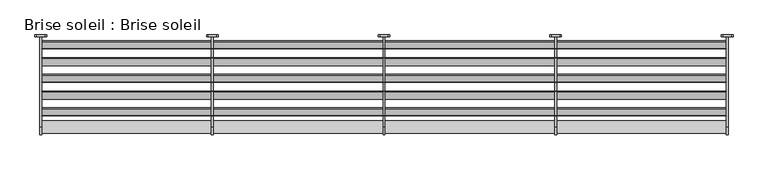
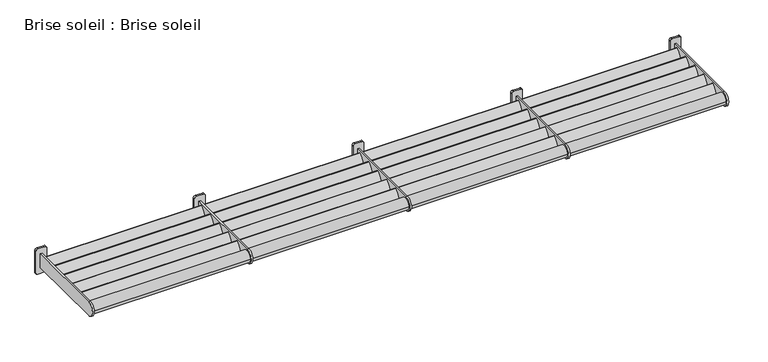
"""IFC4 building model written with IfcOpenShell, lengths in millimetres: proxy geometry, Brise soleil : Brise soleil."""

from ifc_helpers import new_model, si_unit, point, frame, frame_2d, origin, place, context, project, spatial, circle_curve, trimmed, segment, composite_curve, outline, extrude, source, transform, mapped, element, save
from ifc_brep_helpers import plane_surface, cylinder_surface, advanced_brep


def brise_soleil_brise_soleil_b8130995(model_context):
    return source(origin(), model_context, "Body", "SolidModel", [
        advanced_brep(
        [(5360.0, -20.0, 1107.5), (5280.0, -20.0, 1107.5), (5260.0, -20.0, 1087.5), (5260.0, -20.0, 827.5), (5280.0, -20.0, 807.5), (5360.0, -20.0, 807.5), (5380.0, -20.0, 827.5), (5380.0, -20.0, 1087.5), (5330.0, -20.0, 1037.5), (5330.0, -20.0, 877.5), (5310.0, -20.0, 877.5), (5310.0, -20.0, 1037.5), (5360.0, 0.0, 1107.5), (5380.0, 0.0, 1087.5), (5380.0, 0.0, 827.5), (5360.0, 0.0, 807.5), (5280.0, 0.0, 807.5), (5260.0, 0.0, 827.5), (5260.0, 0.0, 1087.5), (5280.0, 0.0, 1107.5), (5330.0, -950.0, 1037.5), (5330.0, -950.0, 877.5), (5310.0, -950.0, 877.5), (5310.0, -950.0, 1037.5)],
        [
            (0, 1),
            (1, 2, circle_curve(frame((5280.0, -20.0, 1087.5), z_axis=(0.0, -1.0, 0.0), x_axis=(1.0, 0.0, 0.0)), 20.0)),
            (2, 3),
            (3, 4, circle_curve(frame((5280.0, -20.0, 827.5), z_axis=(0.0, -1.0, 0.0), x_axis=(1.0, 0.0, 0.0)), 20.0)),
            (4, 5),
            (5, 6, circle_curve(frame((5360.0, -20.0, 827.5), z_axis=(0.0, -1.0, 0.0), x_axis=(1.0, 0.0, 0.0)), 20.0)),
            (6, 7),
            (7, 0, circle_curve(frame((5360.0, -20.0, 1087.5), z_axis=(0.0, -1.0, 0.0), x_axis=(1.0, 0.0, 0.0)), 20.0)),
            (8, 9),
            (9, 10),
            (10, 11),
            (11, 8),
            (12, 13, circle_curve(frame((5360.0, 0.0, 1087.5), z_axis=(0.0, 1.0, 0.0), x_axis=(1.0, 0.0, 0.0)), 20.0)),
            (13, 14),
            (14, 15, circle_curve(frame((5360.0, 0.0, 827.5), z_axis=(0.0, 1.0, 0.0), x_axis=(1.0, 0.0, 0.0)), 20.0)),
            (15, 16),
            (16, 17, circle_curve(frame((5280.0, 0.0, 827.5), z_axis=(0.0, 1.0, 0.0), x_axis=(1.0, 0.0, 0.0)), 20.0)),
            (17, 18),
            (18, 19, circle_curve(frame((5280.0, 0.0, 1087.5), z_axis=(0.0, 1.0, 0.0), x_axis=(1.0, 0.0, 0.0)), 20.0)),
            (19, 12),
            (0, 12),
            (19, 1),
            (18, 2),
            (17, 3),
            (16, 4),
            (15, 5),
            (14, 6),
            (13, 7),
            (20, 21, circle_curve(frame((5330.0, -950.0, 957.5), z_axis=(1.0, 0.0, 0.0), x_axis=(0.0, 1.0, 0.0)), 80.0)),
            (21, 9),
            (8, 20),
            (22, 23, circle_curve(frame((5310.0, -950.0, 957.5), z_axis=(-1.0, 0.0, 0.0), x_axis=(0.0, 1.0, 0.0)), 80.0)),
            (23, 11),
            (10, 22),
            (20, 23),
            (22, 21),
        ],
        [
            plane_surface(frame((5199.3786938, -20.0, 1107.5), z_axis=(0.0, -1.0, 0.0), x_axis=(-1.0, 0.0, 0.0))),
            plane_surface(frame((5199.3786938, 0.0, 1107.5), z_axis=(0.0, 1.0, 0.0), x_axis=(1.0, 0.0, 0.0))),
            plane_surface(frame((5360.0, -20.0, 1107.5), z_axis=(0.0, 0.0, 1.0), x_axis=(0.0, 1.0, 0.0))),
            cylinder_surface(frame((5280.0, 0.0, 1087.5), z_axis=(0.0, -1.0, 0.0), x_axis=(1.0, 0.0, 0.0)), 20.0),
            plane_surface(frame((5260.0, -20.0, 1087.5), z_axis=(-1.0, 0.0, 0.0), x_axis=(0.0, 1.0, 0.0))),
            cylinder_surface(frame((5280.0, 0.0, 827.5), z_axis=(0.0, -1.0, 0.0), x_axis=(1.0, 0.0, 0.0)), 20.0),
            plane_surface(frame((5280.0, -20.0, 807.5), z_axis=(0.0, 0.0, -1.0), x_axis=(0.0, 1.0, 0.0))),
            cylinder_surface(frame((5360.0, 0.0, 827.5), z_axis=(0.0, -1.0, 0.0), x_axis=(1.0, 0.0, 0.0)), 20.0),
            plane_surface(frame((5380.0, -20.0, 827.5), z_axis=(1.0, 0.0, 0.0), x_axis=(0.0, 1.0, 0.0))),
            cylinder_surface(frame((5360.0, 0.0, 1087.5), z_axis=(0.0, -1.0, 0.0), x_axis=(1.0, 0.0, 0.0)), 20.0),
            plane_surface(frame((5330.0, -870.0, 957.5), z_axis=(1.0, 0.0, 0.0), x_axis=(0.0, 0.0, 1.0))),
            plane_surface(frame((5310.0, -870.0, 957.5), z_axis=(-1.0, 0.0, 0.0), x_axis=(0.0, 0.0, -1.0))),
            cylinder_surface(frame((5310.0, -950.0, 957.5), z_axis=(1.0, 0.0, 0.0), x_axis=(0.0, 1.0, 0.0)), 80.0),
            plane_surface(frame((5330.0, -950.0, 877.5), z_axis=(0.0, 0.0, -1.0), x_axis=(-1.0, 0.0, 0.0))),
            plane_surface(frame((5330.0, 0.0, 1037.5), z_axis=(0.0, 0.0, 1.0), x_axis=(-1.0, 0.0, 0.0))),
        ],
        [
            (0, [[1, 2, 3, 4, 5, 6, 7, 8], [9, 10, 11, 12]]),
            (1, [[13, 14, 15, 16, 17, 18, 19, 20]]),
            (2, [[-1, 21, -20, 22]]),
            (3, [[-2, -22, -19, 23]]),
            (4, [[-3, -23, -18, 24]]),
            (5, [[-4, -24, -17, 25]]),
            (6, [[-5, -25, -16, 26]]),
            (7, [[-6, -26, -15, 27]]),
            (8, [[-7, -27, -14, 28]]),
            (9, [[-8, -28, -13, -21]]),
            (10, [[29, 30, -9, 31]]),
            (11, [[32, 33, -11, 34]]),
            (12, [[-29, 35, -32, 36]]),
            (13, [[-36, -34, -10, -30]]),
            (14, [[-35, -31, -12, -33]]),
        ],
    ),
        advanced_brep(
        [(3590.0, -20.0, 1107.5), (3510.0, -20.0, 1107.5), (3490.0, -20.0, 1087.5), (3490.0, -20.0, 827.5), (3510.0, -20.0, 807.5), (3590.0, -20.0, 807.5), (3610.0, -20.0, 827.5), (3610.0, -20.0, 1087.5), (3560.0, -20.0, 1037.5), (3560.0, -20.0, 877.5), (3540.0, -20.0, 877.5), (3540.0, -20.0, 1037.5), (3590.0, 0.0, 1107.5), (3610.0, 0.0, 1087.5), (3610.0, 0.0, 827.5), (3590.0, 0.0, 807.5), (3510.0, 0.0, 807.5), (3490.0, 0.0, 827.5), (3490.0, 0.0, 1087.5), (3510.0, 0.0, 1107.5), (3560.0, -950.0, 1037.5), (3560.0, -950.0, 877.5), (3540.0, -950.0, 877.5), (3540.0, -950.0, 1037.5)],
        [
            (0, 1),
            (1, 2, circle_curve(frame((3510.0, -20.0, 1087.5), z_axis=(0.0, -1.0, 0.0), x_axis=(1.0, 0.0, 0.0)), 20.0)),
            (2, 3),
            (3, 4, circle_curve(frame((3510.0, -20.0, 827.5), z_axis=(0.0, -1.0, 0.0), x_axis=(1.0, 0.0, 0.0)), 20.0)),
            (4, 5),
            (5, 6, circle_curve(frame((3590.0, -20.0, 827.5), z_axis=(0.0, -1.0, 0.0), x_axis=(1.0, 0.0, 0.0)), 20.0)),
            (6, 7),
            (7, 0, circle_curve(frame((3590.0, -20.0, 1087.5), z_axis=(0.0, -1.0, 0.0), x_axis=(1.0, 0.0, 0.0)), 20.0)),
            (8, 9),
            (9, 10),
            (10, 11),
            (11, 8),
            (12, 13, circle_curve(frame((3590.0, 0.0, 1087.5), z_axis=(0.0, 1.0, 0.0), x_axis=(1.0, 0.0, 0.0)), 20.0)),
            (13, 14),
            (14, 15, circle_curve(frame((3590.0, 0.0, 827.5), z_axis=(0.0, 1.0, 0.0), x_axis=(1.0, 0.0, 0.0)), 20.0)),
            (15, 16),
            (16, 17, circle_curve(frame((3510.0, 0.0, 827.5), z_axis=(0.0, 1.0, 0.0), x_axis=(1.0, 0.0, 0.0)), 20.0)),
            (17, 18),
            (18, 19, circle_curve(frame((3510.0, 0.0, 1087.5), z_axis=(0.0, 1.0, 0.0), x_axis=(1.0, 0.0, 0.0)), 20.0)),
            (19, 12),
            (0, 12),
            (19, 1),
            (18, 2),
            (17, 3),
            (16, 4),
            (15, 5),
            (14, 6),
            (13, 7),
            (20, 21, circle_curve(frame((3560.0, -950.0, 957.5), z_axis=(1.0, 0.0, 0.0), x_axis=(0.0, 1.0, 0.0)), 80.0)),
            (21, 9),
            (8, 20),
            (22, 23, circle_curve(frame((3540.0, -950.0, 957.5), z_axis=(-1.0, 0.0, 0.0), x_axis=(0.0, 1.0, 0.0)), 80.0)),
            (23, 11),
            (10, 22),
            (20, 23),
            (22, 21),
        ],
        [
            plane_surface(frame((3429.3786938, -20.0, 1107.5), z_axis=(0.0, -1.0, 0.0), x_axis=(-1.0, 0.0, 0.0))),
            plane_surface(frame((3429.3786938, 0.0, 1107.5), z_axis=(0.0, 1.0, 0.0), x_axis=(1.0, 0.0, 0.0))),
            plane_surface(frame((3590.0, -20.0, 1107.5), z_axis=(0.0, 0.0, 1.0), x_axis=(0.0, 1.0, 0.0))),
            cylinder_surface(frame((3510.0, 0.0, 1087.5), z_axis=(0.0, -1.0, 0.0), x_axis=(1.0, 0.0, 0.0)), 20.0),
            plane_surface(frame((3490.0, -20.0, 1087.5), z_axis=(-1.0, 0.0, 0.0), x_axis=(0.0, 1.0, 0.0))),
            cylinder_surface(frame((3510.0, 0.0, 827.5), z_axis=(0.0, -1.0, 0.0), x_axis=(1.0, 0.0, 0.0)), 20.0),
            plane_surface(frame((3510.0, -20.0, 807.5), z_axis=(0.0, 0.0, -1.0), x_axis=(0.0, 1.0, 0.0))),
            cylinder_surface(frame((3590.0, 0.0, 827.5), z_axis=(0.0, -1.0, 0.0), x_axis=(1.0, 0.0, 0.0)), 20.0),
            plane_surface(frame((3610.0, -20.0, 827.5), z_axis=(1.0, 0.0, 0.0), x_axis=(0.0, 1.0, 0.0))),
            cylinder_surface(frame((3590.0, 0.0, 1087.5), z_axis=(0.0, -1.0, 0.0), x_axis=(1.0, 0.0, 0.0)), 20.0),
            plane_surface(frame((3560.0, -870.0, 957.5), z_axis=(1.0, 0.0, 0.0), x_axis=(0.0, 0.0, 1.0))),
            plane_surface(frame((3540.0, -870.0, 957.5), z_axis=(-1.0, 0.0, 0.0), x_axis=(0.0, 0.0, -1.0))),
            cylinder_surface(frame((3540.0, -950.0, 957.5), z_axis=(1.0, 0.0, 0.0), x_axis=(0.0, 1.0, 0.0)), 80.0),
            plane_surface(frame((3560.0, -950.0, 877.5), z_axis=(0.0, 0.0, -1.0), x_axis=(-1.0, 0.0, 0.0))),
            plane_surface(frame((3560.0, 0.0, 1037.5), z_axis=(0.0, 0.0, 1.0), x_axis=(-1.0, 0.0, 0.0))),
        ],
        [
            (0, [[1, 2, 3, 4, 5, 6, 7, 8], [9, 10, 11, 12]]),
            (1, [[13, 14, 15, 16, 17, 18, 19, 20]]),
            (2, [[-1, 21, -20, 22]]),
            (3, [[-2, -22, -19, 23]]),
            (4, [[-3, -23, -18, 24]]),
            (5, [[-4, -24, -17, 25]]),
            (6, [[-5, -25, -16, 26]]),
            (7, [[-6, -26, -15, 27]]),
            (8, [[-7, -27, -14, 28]]),
            (9, [[-8, -28, -13, -21]]),
            (10, [[29, 30, -9, 31]]),
            (11, [[32, 33, -11, 34]]),
            (12, [[-29, 35, -32, 36]]),
            (13, [[-36, -34, -10, -30]]),
            (14, [[-35, -31, -12, -33]]),
        ],
    ),
        advanced_brep(
        [(1820.0, -20.0, 1107.5), (1740.0, -20.0, 1107.5), (1720.0, -20.0, 1087.5), (1720.0, -20.0, 827.5), (1740.0, -20.0, 807.5), (1820.0, -20.0, 807.5), (1840.0, -20.0, 827.5), (1840.0, -20.0, 1087.5), (1790.0, -20.0, 1037.5), (1790.0, -20.0, 877.5), (1770.0, -20.0, 877.5), (1770.0, -20.0, 1037.5), (1820.0, 0.0, 1107.5), (1840.0, 0.0, 1087.5), (1840.0, 0.0, 827.5), (1820.0, 0.0, 807.5), (1740.0, 0.0, 807.5), (1720.0, 0.0, 827.5), (1720.0, 0.0, 1087.5), (1740.0, 0.0, 1107.5), (1790.0, -950.0, 1037.5), (1790.0, -950.0, 877.5), (1770.0, -950.0, 877.5), (1770.0, -950.0, 1037.5)],
        [
            (0, 1),
            (1, 2, circle_curve(frame((1740.0, -20.0, 1087.5), z_axis=(0.0, -1.0, 0.0), x_axis=(1.0, 0.0, 0.0)), 20.0)),
            (2, 3),
            (3, 4, circle_curve(frame((1740.0, -20.0, 827.5), z_axis=(0.0, -1.0, 0.0), x_axis=(1.0, 0.0, 0.0)), 20.0)),
            (4, 5),
            (5, 6, circle_curve(frame((1820.0, -20.0, 827.5), z_axis=(0.0, -1.0, 0.0), x_axis=(1.0, 0.0, 0.0)), 20.0)),
            (6, 7),
            (7, 0, circle_curve(frame((1820.0, -20.0, 1087.5), z_axis=(0.0, -1.0, 0.0), x_axis=(1.0, 0.0, 0.0)), 20.0)),
            (8, 9),
            (9, 10),
            (10, 11),
            (11, 8),
            (12, 13, circle_curve(frame((1820.0, 0.0, 1087.5), z_axis=(0.0, 1.0, 0.0), x_axis=(1.0, 0.0, 0.0)), 20.0)),
            (13, 14),
            (14, 15, circle_curve(frame((1820.0, 0.0, 827.5), z_axis=(0.0, 1.0, 0.0), x_axis=(1.0, 0.0, 0.0)), 20.0)),
            (15, 16),
            (16, 17, circle_curve(frame((1740.0, 0.0, 827.5), z_axis=(0.0, 1.0, 0.0), x_axis=(1.0, 0.0, 0.0)), 20.0)),
            (17, 18),
            (18, 19, circle_curve(frame((1740.0, 0.0, 1087.5), z_axis=(0.0, 1.0, 0.0), x_axis=(1.0, 0.0, 0.0)), 20.0)),
            (19, 12),
            (0, 12),
            (19, 1),
            (18, 2),
            (17, 3),
            (16, 4),
            (15, 5),
            (14, 6),
            (13, 7),
            (20, 21, circle_curve(frame((1790.0, -950.0, 957.5), z_axis=(1.0, 0.0, 0.0), x_axis=(0.0, 1.0, 0.0)), 80.0)),
            (21, 9),
            (8, 20),
            (22, 23, circle_curve(frame((1770.0, -950.0, 957.5), z_axis=(-1.0, 0.0, 0.0), x_axis=(0.0, 1.0, 0.0)), 80.0)),
            (23, 11),
            (10, 22),
            (20, 23),
            (22, 21),
        ],
        [
            plane_surface(frame((1659.3786938, -20.0, 1107.5), z_axis=(0.0, -1.0, 0.0), x_axis=(-1.0, 0.0, 0.0))),
            plane_surface(frame((1659.3786938, 0.0, 1107.5), z_axis=(0.0, 1.0, 0.0), x_axis=(1.0, 0.0, 0.0))),
            plane_surface(frame((1820.0, -20.0, 1107.5), z_axis=(0.0, 0.0, 1.0), x_axis=(0.0, 1.0, 0.0))),
            cylinder_surface(frame((1740.0, 0.0, 1087.5), z_axis=(0.0, -1.0, 0.0), x_axis=(1.0, 0.0, 0.0)), 20.0),
            plane_surface(frame((1720.0, -20.0, 1087.5), z_axis=(-1.0, 0.0, 0.0), x_axis=(0.0, 1.0, 0.0))),
            cylinder_surface(frame((1740.0, 0.0, 827.5), z_axis=(0.0, -1.0, 0.0), x_axis=(1.0, 0.0, 0.0)), 20.0),
            plane_surface(frame((1740.0, -20.0, 807.5), z_axis=(0.0, 0.0, -1.0), x_axis=(0.0, 1.0, 0.0))),
            cylinder_surface(frame((1820.0, 0.0, 827.5), z_axis=(0.0, -1.0, 0.0), x_axis=(1.0, 0.0, 0.0)), 20.0),
            plane_surface(frame((1840.0, -20.0, 827.5), z_axis=(1.0, 0.0, 0.0), x_axis=(0.0, 1.0, 0.0))),
            cylinder_surface(frame((1820.0, 0.0, 1087.5), z_axis=(0.0, -1.0, 0.0), x_axis=(1.0, 0.0, 0.0)), 20.0),
            plane_surface(frame((1790.0, -870.0, 957.5), z_axis=(1.0, 0.0, 0.0), x_axis=(0.0, 0.0, 1.0))),
            plane_surface(frame((1770.0, -870.0, 957.5), z_axis=(-1.0, 0.0, 0.0), x_axis=(0.0, 0.0, -1.0))),
            cylinder_surface(frame((1770.0, -950.0, 957.5), z_axis=(1.0, 0.0, 0.0), x_axis=(0.0, 1.0, 0.0)), 80.0),
            plane_surface(frame((1790.0, -950.0, 877.5), z_axis=(0.0, 0.0, -1.0), x_axis=(-1.0, 0.0, 0.0))),
            plane_surface(frame((1790.0, 0.0, 1037.5), z_axis=(0.0, 0.0, 1.0), x_axis=(-1.0, 0.0, 0.0))),
        ],
        [
            (0, [[1, 2, 3, 4, 5, 6, 7, 8], [9, 10, 11, 12]]),
            (1, [[13, 14, 15, 16, 17, 18, 19, 20]]),
            (2, [[-1, 21, -20, 22]]),
            (3, [[-2, -22, -19, 23]]),
            (4, [[-3, -23, -18, 24]]),
            (5, [[-4, -24, -17, 25]]),
            (6, [[-5, -25, -16, 26]]),
            (7, [[-6, -26, -15, 27]]),
            (8, [[-7, -27, -14, 28]]),
            (9, [[-8, -28, -13, -21]]),
            (10, [[29, 30, -9, 31]]),
            (11, [[32, 33, -11, 34]]),
            (12, [[-29, 35, -32, 36]]),
            (13, [[-36, -34, -10, -30]]),
            (14, [[-35, -31, -12, -33]]),
        ],
    ),
        extrude(outline(composite_curve([segment(trimmed(circle_curve(frame_2d((-131.1196352, 870.0937882)), 187.4135018), [point((-317.3614097, 891.0179864))], [point((-242.3614097, 1020.921797))], False, "CARTESIAN"), True, "CONTINUOUS"), segment(trimmed(circle_curve(frame_2d((-239.3935933, 1016.8978604)), 5.0), [point((-242.3614097, 1020.921797))], [point((-236.4257768, 1012.8739239))], False, "CARTESIAN"), True, "CONTINUOUS"), segment(trimmed(circle_curve(frame_2d((-131.1196352, 870.0937882)), 177.4135018), [point((-236.4257768, 1012.8739239))], [point((-307.4239307, 889.9015141))], True, "CARTESIAN"), True, "CONTINUOUS"), segment(trimmed(circle_curve(frame_2d((-312.3926702, 890.4597503)), 5.0), [point((-307.4239307, 889.9015141))], [point((-317.3614097, 891.0179864))], False, "CARTESIAN"), True, "CONTINUOUS")], self_intersect=False)), frame((20.0, 0.0, 0.0), z_axis=(1.0, 0.0, 0.0), x_axis=(0.0, 1.0, 0.0)), (0.0, 0.0, 1.0), 7060.0),
        extrude(outline(composite_curve([segment(trimmed(circle_curve(frame_2d((-303.6196352, 870.0937882)), 187.4135018), [point((-489.8614097, 891.0179864))], [point((-414.8614097, 1020.921797))], False, "CARTESIAN"), True, "CONTINUOUS"), segment(trimmed(circle_curve(frame_2d((-411.8935933, 1016.8978604)), 5.0), [point((-414.8614097, 1020.921797))], [point((-408.9257768, 1012.8739239))], False, "CARTESIAN"), True, "CONTINUOUS"), segment(trimmed(circle_curve(frame_2d((-303.6196352, 870.0937882)), 177.4135018), [point((-408.9257768, 1012.8739239))], [point((-479.9239307, 889.9015141))], True, "CARTESIAN"), True, "CONTINUOUS"), segment(trimmed(circle_curve(frame_2d((-484.8926702, 890.4597503)), 5.0), [point((-479.9239307, 889.9015141))], [point((-489.8614097, 891.0179864))], False, "CARTESIAN"), True, "CONTINUOUS")], self_intersect=False)), frame((20.0, 0.0, 0.0), z_axis=(1.0, 0.0, 0.0), x_axis=(0.0, 1.0, 0.0)), (0.0, 0.0, 1.0), 7060.0),
        extrude(outline(composite_curve([segment(trimmed(circle_curve(frame_2d((-476.1196352, 870.0937882)), 187.4135018), [point((-662.3614097, 891.0179864))], [point((-587.3614097, 1020.921797))], False, "CARTESIAN"), True, "CONTINUOUS"), segment(trimmed(circle_curve(frame_2d((-584.3935933, 1016.8978604)), 5.0), [point((-587.3614097, 1020.921797))], [point((-581.4257768, 1012.8739239))], False, "CARTESIAN"), True, "CONTINUOUS"), segment(trimmed(circle_curve(frame_2d((-476.1196352, 870.0937882)), 177.4135018), [point((-581.4257768, 1012.8739239))], [point((-652.4239307, 889.9015141))], True, "CARTESIAN"), True, "CONTINUOUS"), segment(trimmed(circle_curve(frame_2d((-657.3926702, 890.4597503)), 5.0), [point((-652.4239307, 889.9015141))], [point((-662.3614097, 891.0179864))], False, "CARTESIAN"), True, "CONTINUOUS")], self_intersect=False)), frame((20.0, 0.0, 0.0), z_axis=(1.0, 0.0, 0.0), x_axis=(0.0, 1.0, 0.0)), (0.0, 0.0, 1.0), 7060.0),
        extrude(outline(composite_curve([segment(trimmed(circle_curve(frame_2d((41.3803648, 870.0937882)), 187.4135018), [point((-144.8614097, 891.0179864))], [point((-69.8614097, 1020.921797))], False, "CARTESIAN"), True, "CONTINUOUS"), segment(trimmed(circle_curve(frame_2d((-66.8935933, 1016.8978604)), 5.0), [point((-69.8614097, 1020.921797))], [point((-63.9257768, 1012.8739239))], False, "CARTESIAN"), True, "CONTINUOUS"), segment(trimmed(circle_curve(frame_2d((41.3803648, 870.0937882)), 177.4135018), [point((-63.9257768, 1012.8739239))], [point((-134.9239307, 889.9015141))], True, "CARTESIAN"), True, "CONTINUOUS"), segment(trimmed(circle_curve(frame_2d((-139.8926702, 890.4597503)), 5.0), [point((-134.9239307, 889.9015141))], [point((-144.8614097, 891.0179864))], False, "CARTESIAN"), True, "CONTINUOUS")], self_intersect=False)), frame((20.0, 0.0, 0.0), z_axis=(1.0, 0.0, 0.0), x_axis=(0.0, 1.0, 0.0)), (0.0, 0.0, 1.0), 7060.0),
        extrude(outline(composite_curve([segment(trimmed(circle_curve(frame_2d((-648.6196352, 870.0937882)), 187.4135018), [point((-834.8614097, 891.0179864))], [point((-759.8614097, 1020.921797))], False, "CARTESIAN"), True, "CONTINUOUS"), segment(trimmed(circle_curve(frame_2d((-756.8935933, 1016.8978604)), 5.0), [point((-759.8614097, 1020.921797))], [point((-753.9257768, 1012.8739239))], False, "CARTESIAN"), True, "CONTINUOUS"), segment(trimmed(circle_curve(frame_2d((-648.6196352, 870.0937882)), 177.4135018), [point((-753.9257768, 1012.8739239))], [point((-824.9239307, 889.9015141))], True, "CARTESIAN"), True, "CONTINUOUS"), segment(trimmed(circle_curve(frame_2d((-829.8926702, 890.4597503)), 5.0), [point((-824.9239307, 889.9015141))], [point((-834.8614097, 891.0179864))], False, "CARTESIAN"), True, "CONTINUOUS")], self_intersect=False)), frame((20.0, 0.0, 0.0), z_axis=(1.0, 0.0, 0.0), x_axis=(0.0, 1.0, 0.0)), (0.0, 0.0, 1.0), 7060.0),
        advanced_brep(
        [(7130.0, -20.0, 1107.5), (7050.0, -20.0, 1107.5), (7030.0, -20.0, 1087.5), (7030.0, -20.0, 827.5), (7050.0, -20.0, 807.5), (7130.0, -20.0, 807.5), (7150.0, -20.0, 827.5), (7150.0, -20.0, 1087.5), (7100.0, -20.0, 1037.5), (7100.0, -20.0, 877.5), (7080.0, -20.0, 877.5), (7080.0, -20.0, 1037.5), (7130.0, 0.0, 1107.5), (7150.0, 0.0, 1087.5), (7150.0, 0.0, 827.5), (7130.0, 0.0, 807.5), (7050.0, 0.0, 807.5), (7030.0, 0.0, 827.5), (7030.0, 0.0, 1087.5), (7050.0, 0.0, 1107.5), (7100.0, -950.0, 1037.5), (7100.0, -950.0, 877.5), (7080.0, -950.0, 877.5), (7080.0, -950.0, 1037.5)],
        [
            (0, 1),
            (1, 2, circle_curve(frame((7050.0, -20.0, 1087.5), z_axis=(0.0, -1.0, 0.0), x_axis=(1.0, 0.0, 0.0)), 20.0)),
            (2, 3),
            (3, 4, circle_curve(frame((7050.0, -20.0, 827.5), z_axis=(0.0, -1.0, 0.0), x_axis=(1.0, 0.0, 0.0)), 20.0)),
            (4, 5),
            (5, 6, circle_curve(frame((7130.0, -20.0, 827.5), z_axis=(0.0, -1.0, 0.0), x_axis=(1.0, 0.0, 0.0)), 20.0)),
            (6, 7),
            (7, 0, circle_curve(frame((7130.0, -20.0, 1087.5), z_axis=(0.0, -1.0, 0.0), x_axis=(1.0, 0.0, 0.0)), 20.0)),
            (8, 9),
            (9, 10),
            (10, 11),
            (11, 8),
            (12, 13, circle_curve(frame((7130.0, 0.0, 1087.5), z_axis=(0.0, 1.0, 0.0), x_axis=(1.0, 0.0, 0.0)), 20.0)),
            (13, 14),
            (14, 15, circle_curve(frame((7130.0, 0.0, 827.5), z_axis=(0.0, 1.0, 0.0), x_axis=(1.0, 0.0, 0.0)), 20.0)),
            (15, 16),
            (16, 17, circle_curve(frame((7050.0, 0.0, 827.5), z_axis=(0.0, 1.0, 0.0), x_axis=(1.0, 0.0, 0.0)), 20.0)),
            (17, 18),
            (18, 19, circle_curve(frame((7050.0, 0.0, 1087.5), z_axis=(0.0, 1.0, 0.0), x_axis=(1.0, 0.0, 0.0)), 20.0)),
            (19, 12),
            (0, 12),
            (19, 1),
            (18, 2),
            (17, 3),
            (16, 4),
            (15, 5),
            (14, 6),
            (13, 7),
            (20, 21, circle_curve(frame((7100.0, -950.0, 957.5), z_axis=(1.0, 0.0, 0.0), x_axis=(0.0, 1.0, 0.0)), 80.0)),
            (21, 9),
            (8, 20),
            (22, 23, circle_curve(frame((7080.0, -950.0, 957.5), z_axis=(-1.0, 0.0, 0.0), x_axis=(0.0, 1.0, 0.0)), 80.0)),
            (23, 11),
            (10, 22),
            (20, 23),
            (22, 21),
        ],
        [
            plane_surface(frame((6969.3786938, -20.0, 1107.5), z_axis=(0.0, -1.0, 0.0), x_axis=(-1.0, 0.0, 0.0))),
            plane_surface(frame((6969.3786938, 0.0, 1107.5), z_axis=(0.0, 1.0, 0.0), x_axis=(1.0, 0.0, 0.0))),
            plane_surface(frame((7130.0, -20.0, 1107.5), z_axis=(0.0, 0.0, 1.0), x_axis=(0.0, 1.0, 0.0))),
            cylinder_surface(frame((7050.0, 0.0, 1087.5), z_axis=(0.0, -1.0, 0.0), x_axis=(1.0, 0.0, 0.0)), 20.0),
            plane_surface(frame((7030.0, -20.0, 1087.5), z_axis=(-1.0, 0.0, 0.0), x_axis=(0.0, 1.0, 0.0))),
            cylinder_surface(frame((7050.0, 0.0, 827.5), z_axis=(0.0, -1.0, 0.0), x_axis=(1.0, 0.0, 0.0)), 20.0),
            plane_surface(frame((7050.0, -20.0, 807.5), z_axis=(0.0, 0.0, -1.0), x_axis=(0.0, 1.0, 0.0))),
            cylinder_surface(frame((7130.0, 0.0, 827.5), z_axis=(0.0, -1.0, 0.0), x_axis=(1.0, 0.0, 0.0)), 20.0),
            plane_surface(frame((7150.0, -20.0, 827.5), z_axis=(1.0, 0.0, 0.0), x_axis=(0.0, 1.0, 0.0))),
            cylinder_surface(frame((7130.0, 0.0, 1087.5), z_axis=(0.0, -1.0, 0.0), x_axis=(1.0, 0.0, 0.0)), 20.0),
            plane_surface(frame((7100.0, -870.0, 957.5), z_axis=(1.0, 0.0, 0.0), x_axis=(0.0, 0.0, 1.0))),
            plane_surface(frame((7080.0, -870.0, 957.5), z_axis=(-1.0, 0.0, 0.0), x_axis=(0.0, 0.0, -1.0))),
            cylinder_surface(frame((7080.0, -950.0, 957.5), z_axis=(1.0, 0.0, 0.0), x_axis=(0.0, 1.0, 0.0)), 80.0),
            plane_surface(frame((7100.0, -950.0, 877.5), z_axis=(0.0, 0.0, -1.0), x_axis=(-1.0, 0.0, 0.0))),
            plane_surface(frame((7100.0, 0.0, 1037.5), z_axis=(0.0, 0.0, 1.0), x_axis=(-1.0, 0.0, 0.0))),
        ],
        [
            (0, [[1, 2, 3, 4, 5, 6, 7, 8], [9, 10, 11, 12]]),
            (1, [[13, 14, 15, 16, 17, 18, 19, 20]]),
            (2, [[-1, 21, -20, 22]]),
            (3, [[-2, -22, -19, 23]]),
            (4, [[-3, -23, -18, 24]]),
            (5, [[-4, -24, -17, 25]]),
            (6, [[-5, -25, -16, 26]]),
            (7, [[-6, -26, -15, 27]]),
            (8, [[-7, -27, -14, 28]]),
            (9, [[-8, -28, -13, -21]]),
            (10, [[29, 30, -9, 31]]),
            (11, [[32, 33, -11, 34]]),
            (12, [[-29, 35, -32, 36]]),
            (13, [[-36, -34, -10, -30]]),
            (14, [[-35, -31, -12, -33]]),
        ],
    ),
        advanced_brep(
        [(50.0, -20.0, 1107.5), (-30.0, -20.0, 1107.5), (-50.0, -20.0, 1087.5), (-50.0, -20.0, 827.5), (-30.0, -20.0, 807.5), (50.0, -20.0, 807.5), (70.0, -20.0, 827.5), (70.0, -20.0, 1087.5), (20.0, -20.0, 1037.5), (20.0, -20.0, 877.5), (0.0, -20.0, 877.5), (0.0, -20.0, 1037.5), (50.0, 0.0, 1107.5), (70.0, 0.0, 1087.5), (70.0, 0.0, 827.5), (50.0, 0.0, 807.5), (-30.0, 0.0, 807.5), (-50.0, 0.0, 827.5), (-50.0, 0.0, 1087.5), (-30.0, 0.0, 1107.5), (20.0, -950.0, 1037.5), (20.0, -950.0, 877.5), (0.0, -950.0, 877.5), (0.0, -950.0, 1037.5)],
        [
            (0, 1),
            (1, 2, circle_curve(frame((-30.0, -20.0, 1087.5), z_axis=(0.0, -1.0, 0.0), x_axis=(1.0, 0.0, 0.0)), 20.0)),
            (2, 3),
            (3, 4, circle_curve(frame((-30.0, -20.0, 827.5), z_axis=(0.0, -1.0, 0.0), x_axis=(1.0, 0.0, 0.0)), 20.0)),
            (4, 5),
            (5, 6, circle_curve(frame((50.0, -20.0, 827.5), z_axis=(0.0, -1.0, 0.0), x_axis=(1.0, 0.0, 0.0)), 20.0)),
            (6, 7),
            (7, 0, circle_curve(frame((50.0, -20.0, 1087.5), z_axis=(0.0, -1.0, 0.0), x_axis=(1.0, 0.0, 0.0)), 20.0)),
            (8, 9),
            (9, 10),
            (10, 11),
            (11, 8),
            (12, 13, circle_curve(frame((50.0, 0.0, 1087.5), z_axis=(0.0, 1.0, 0.0), x_axis=(1.0, 0.0, 0.0)), 20.0)),
            (13, 14),
            (14, 15, circle_curve(frame((50.0, 0.0, 827.5), z_axis=(0.0, 1.0, 0.0), x_axis=(1.0, 0.0, 0.0)), 20.0)),
            (15, 16),
            (16, 17, circle_curve(frame((-30.0, 0.0, 827.5), z_axis=(0.0, 1.0, 0.0), x_axis=(1.0, 0.0, 0.0)), 20.0)),
            (17, 18),
            (18, 19, circle_curve(frame((-30.0, 0.0, 1087.5), z_axis=(0.0, 1.0, 0.0), x_axis=(1.0, 0.0, 0.0)), 20.0)),
            (19, 12),
            (0, 12),
            (19, 1),
            (18, 2),
            (17, 3),
            (16, 4),
            (15, 5),
            (14, 6),
            (13, 7),
            (20, 21, circle_curve(frame((20.0, -950.0, 957.5), z_axis=(1.0, 0.0, 0.0), x_axis=(0.0, 1.0, 0.0)), 80.0)),
            (21, 9),
            (8, 20),
            (22, 23, circle_curve(frame((0.0, -950.0, 957.5), z_axis=(-1.0, 0.0, 0.0), x_axis=(0.0, 1.0, 0.0)), 80.0)),
            (23, 11),
            (10, 22),
            (20, 23),
            (22, 21),
        ],
        [
            plane_surface(frame((-110.6213062, -20.0, 1107.5), z_axis=(0.0, -1.0, 0.0), x_axis=(-1.0, 0.0, 0.0))),
            plane_surface(frame((-110.6213062, 0.0, 1107.5), z_axis=(0.0, 1.0, 0.0), x_axis=(1.0, 0.0, 0.0))),
            plane_surface(frame((50.0, -20.0, 1107.5), z_axis=(0.0, 0.0, 1.0), x_axis=(0.0, 1.0, 0.0))),
            cylinder_surface(frame((-30.0, 0.0, 1087.5), z_axis=(0.0, -1.0, 0.0), x_axis=(1.0, 0.0, 0.0)), 20.0),
            plane_surface(frame((-50.0, -20.0, 1087.5), z_axis=(-1.0, 0.0, 0.0), x_axis=(0.0, 1.0, 0.0))),
            cylinder_surface(frame((-30.0, 0.0, 827.5), z_axis=(0.0, -1.0, 0.0), x_axis=(1.0, 0.0, 0.0)), 20.0),
            plane_surface(frame((-30.0, -20.0, 807.5), z_axis=(0.0, 0.0, -1.0), x_axis=(0.0, 1.0, 0.0))),
            cylinder_surface(frame((50.0, 0.0, 827.5), z_axis=(0.0, -1.0, 0.0), x_axis=(1.0, 0.0, 0.0)), 20.0),
            plane_surface(frame((70.0, -20.0, 827.5), z_axis=(1.0, 0.0, 0.0), x_axis=(0.0, 1.0, 0.0))),
            cylinder_surface(frame((50.0, 0.0, 1087.5), z_axis=(0.0, -1.0, 0.0), x_axis=(1.0, 0.0, 0.0)), 20.0),
            plane_surface(frame((20.0, -870.0, 957.5), z_axis=(1.0, 0.0, 0.0), x_axis=(0.0, 0.0, 1.0))),
            plane_surface(frame((0.0, -870.0, 957.5), z_axis=(-1.0, 0.0, 0.0), x_axis=(0.0, 0.0, -1.0))),
            cylinder_surface(frame((0.0, -950.0, 957.5), z_axis=(1.0, 0.0, 0.0), x_axis=(0.0, 1.0, 0.0)), 80.0),
            plane_surface(frame((20.0, -950.0, 877.5), z_axis=(0.0, 0.0, -1.0), x_axis=(-1.0, 0.0, 0.0))),
            plane_surface(frame((20.0, 0.0, 1037.5), z_axis=(0.0, 0.0, 1.0), x_axis=(-1.0, 0.0, 0.0))),
        ],
        [
            (0, [[1, 2, 3, 4, 5, 6, 7, 8], [9, 10, 11, 12]]),
            (1, [[13, 14, 15, 16, 17, 18, 19, 20]]),
            (2, [[-1, 21, -20, 22]]),
            (3, [[-2, -22, -19, 23]]),
            (4, [[-3, -23, -18, 24]]),
            (5, [[-4, -24, -17, 25]]),
            (6, [[-5, -25, -16, 26]]),
            (7, [[-6, -26, -15, 27]]),
            (8, [[-7, -27, -14, 28]]),
            (9, [[-8, -28, -13, -21]]),
            (10, [[29, 30, -9, 31]]),
            (11, [[32, 33, -11, 34]]),
            (12, [[-29, 35, -32, 36]]),
            (13, [[-36, -34, -10, -30]]),
            (14, [[-35, -31, -12, -33]]),
        ],
    ),
        extrude(outline(composite_curve([segment(trimmed(circle_curve(frame_2d((-950.0, 957.5)), 65.0), [point((-1015.0, 957.5))], [point((-885.0, 957.5))], False, "CARTESIAN"), True, "CONTINUOUS"), segment(trimmed(circle_curve(frame_2d((-950.0, 957.5)), 65.0), [point((-885.0, 957.5))], [point((-1015.0, 957.5))], False, "CARTESIAN"), True, "CONTINUOUS")], self_intersect=False)), frame((20.0, 0.0, 0.0), z_axis=(1.0, 0.0, 0.0), x_axis=(0.0, 1.0, 0.0)), (0.0, 0.0, 1.0), 7060.0),
    ])


if __name__ == "__main__":
    model = new_model("IFC4")
    model_context = context("Model", 3, world=origin())
    ifc_project = project(units=[si_unit("LENGTHUNIT", "METRE", prefix="MILLI")], contexts=[model_context])
    site = spatial("IfcSite", under=ifc_project)
    building = spatial("IfcBuilding", under=site)
    placement = place(None, origin())
    brise_soleil_brise_soleil_shape = brise_soleil_brise_soleil_b8130995(model_context)
    element("IfcBuildingElementProxy", 1, Name="Brise soleil : Brise soleil", ObjectType="Brise soleil : Brise soleil", at=placement, inside=building, context=model_context, shape_type="MappedRepresentation", body=[
        mapped(brise_soleil_brise_soleil_shape, transform((0.0, 0.0, 0.0), x_axis=(1.0, 0.0, 0.0), y_axis=(0.0, 1.0, 0.0), z_axis=(0.0, 0.0, 1.0))),
    ])
    save(model, "model.ifc")
